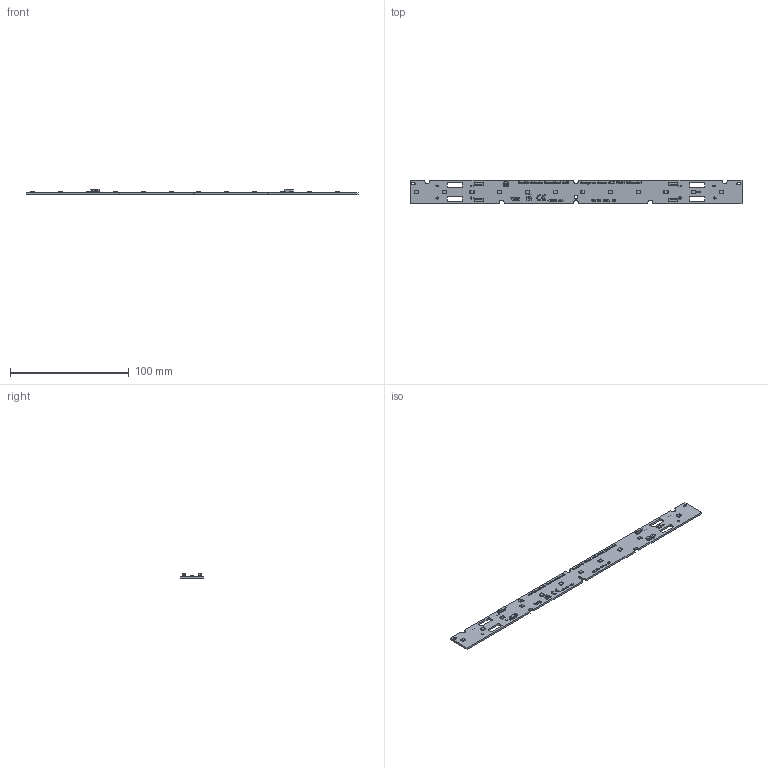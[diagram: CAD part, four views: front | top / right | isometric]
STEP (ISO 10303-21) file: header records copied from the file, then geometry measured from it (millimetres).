
FILE_DESCRIPTION(('Creo Elements/Direct Modeling STEP Export'),'2;1');
FILE_NAME('3D-Model-WU-M-749-STC.stp','2024-12-13T13:21:57',(''),(''),'PTC Creo Elements/Direct Modeling STEP processor for AP214 (Solid Model)','PTC Creo Elements/Direct Modeling 19.0E 27-Jun-2016 (C) Parametric Technology GmbH','');
FILE_SCHEMA(('AUTOMOTIVE_DESIGN { 1 0 10303 214 1 1 1 1 }'));
Length unit declared in the file: millimetre
Products named in the file (124): p1.2; p1.1; p1; 2065-101_998-403.prt; 2065-101_998-403.prt.1; 2065-101_998-403.prt.2; 2065-101_998-403.prt.2.1; Konektor_STC_Wago_2065-101_998-403.stp; ______STEP.ASM; _____-0_STEP.PRT.7; 2835PCT_3D_MODEL_STEP.ASM; 2835PCT_3D_MODEL_ORIGIN_CORRECT.ASM; J_SERIES_2835.STEP; 3D-Baza-Adresa_WU-M-749.34; 3D-Baza-Adresa_WU-M-749.16; 3D-Baza-Adresa_WU-M-749.36; 3D-Baza-Adresa_WU-M-749.21; 3D-Baza-Adresa_WU-M-749.27; 3D-Baza-Adresa_WU-M-749.39; 3D-Baza-Adresa_WU-M-749.41; 3D-Baza-Adresa_WU-M-749.26; 3D-Baza-Adresa_WU-M-749.32; 3D-Baza-Adresa_WU-M-749.35; 3D-Baza-Adresa_WU-M-749.49; 3D-Baza-Adresa_WU-M-749.20; 3D-Baza-Adresa_WU-M-749.65; 3D-Baza-Adresa_WU-M-749.31; 3D-Baza-Adresa_WU-M-749.53; 3D-Baza-Adresa_WU-M-749.13; 3D-Baza-Adresa_WU-M-749.29; 3D-Baza-Adresa_WU-M-749.22; 3D-Baza-Adresa_WU-M-749.28; 3D-Baza-Adresa_WU-M-749.33; 3D-Baza-Adresa_WU-M-749.19; 3D-Baza-Adresa_WU-M-749.61; 3D-Baza-Adresa_WU-M-749.64; 3D-Baza-Adresa_WU-M-749.15; 3D-Baza-Adresa_WU-M-749.66; 3D-Baza-Adresa_WU-M-749.45; 3D-Baza-Adresa_WU-M-749.40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
Assembly tree (128 placements, depth 4):
  p1.2
  p1.1
  p1
  Konektor_STC_Wago_2065-101_998-403.stp
    2065-101_998-403.prt.2.1
    2065-101_998-403.prt.2
    2065-101_998-403.prt.1
    2065-101_998-403.prt
  J_SERIES_2835.STEP
    2835PCT_3D_MODEL_ORIGIN_CORRECT.ASM
      2835PCT_3D_MODEL_STEP.ASM
        _____-0_STEP.PRT.7  x12
        ______STEP.ASM
Bounding box: 279 x 20 x 4.3 mm (x, y, z)
Volume: 8505.9 mm3; surface area: 13031.8 mm2
Topology: 114 solids, 174 shells, 4722 faces, 12914 edges, 8484 vertices
Faces by surface type: plane 3538, cylinder 1184
Entity records: 124413 total; most frequent: CARTESIAN_POINT 17916, ORIENTED_EDGE 17498, DIRECTION 17148, EDGE_CURVE 8745, VECTOR 6830, LINE 6830, VERTEX_POINT 5811, AXIS2_PLACEMENT_3D 5159
